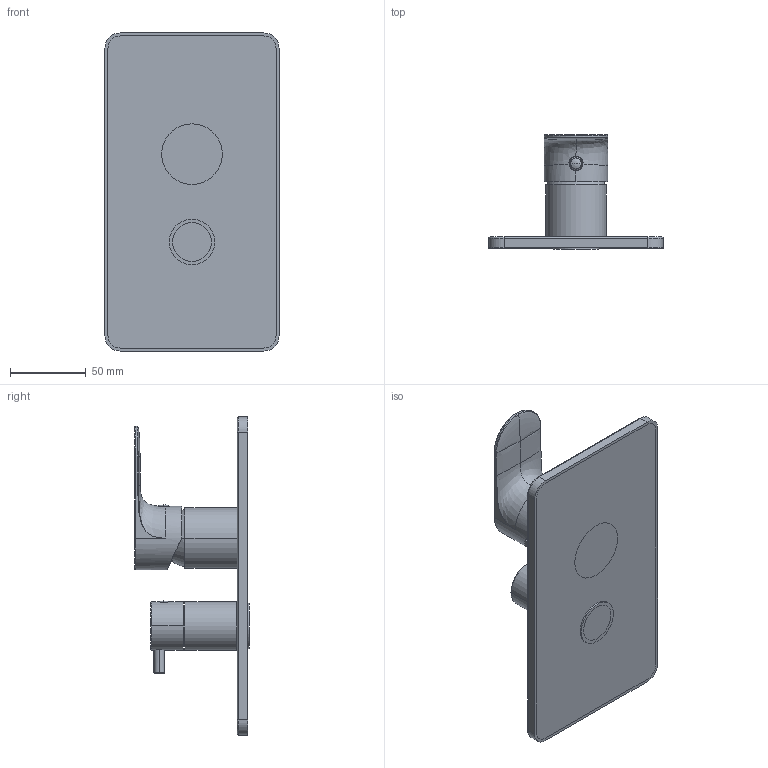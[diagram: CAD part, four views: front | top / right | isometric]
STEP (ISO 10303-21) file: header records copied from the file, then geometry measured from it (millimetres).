
FILE_DESCRIPTION((''),'2;1');
FILE_NAME('64541A_SW0001','2020-06-05T08:27:07',('volponeff'),(''),'CREO PARAMETRIC BY PTC INC, 2018100','CREO PARAMETRIC BY PTC INC, 2018100','');
FILE_SCHEMA(('CONFIG_CONTROL_DESIGN'));
Length unit declared in the file: millimetre
Products named in the file (1): 64541A_SW0001
Bounding box: 115 x 75.6 x 210 mm (x, y, z)
Volume: 185618.4 mm3; surface area: 132700.5 mm2
Topology: 1 solids, 4 shells, 305 faces, 756 edges, 475 vertices
Faces by surface type: plane 133, cylinder 98, cone 28, torus 20, bspline 18, sphere 6, extrusion 2
Entity records: 12450 total; most frequent: CARTESIAN_POINT 5207, ORIENTED_EDGE 1500, DIRECTION 1495, EDGE_CURVE 750, AXIS2_PLACEMENT_3D 542, VERTEX_POINT 475, VECTOR 411, LINE 409
